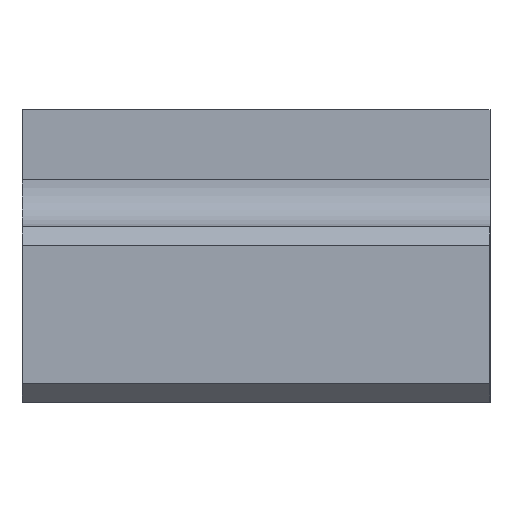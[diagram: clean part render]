
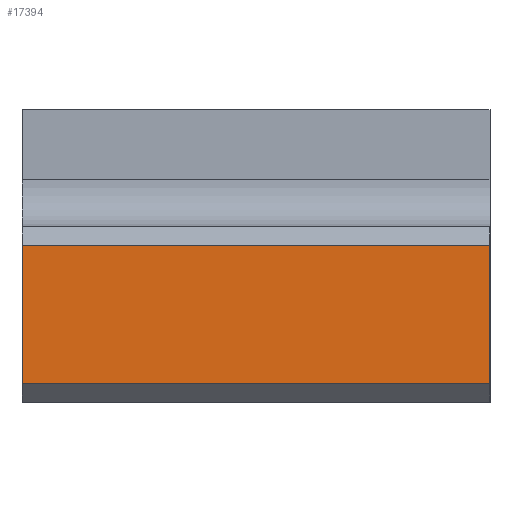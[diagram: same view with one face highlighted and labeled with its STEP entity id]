
A CAD part, left-side view. The second image highlights one B-rep face of the part: STEP entity #17394.
In plain terms, the highlighted planar face has unit normal (-1, 0, 0).
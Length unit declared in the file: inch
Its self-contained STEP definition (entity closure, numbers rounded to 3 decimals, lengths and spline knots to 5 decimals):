
#1125 = EDGE_CURVE ( 'NONE', #4828, #4085, #18127, .T. ) ;
#1126 = EDGE_CURVE ( 'NONE', #4844, #4828, #18129, .T. ) ;
#1127 = EDGE_CURVE ( 'NONE', #4844, #5206, #18131, .T. ) ;
#1269 = ORIENTED_EDGE ( 'NONE', *, *, #1125, .F. ) ;
#1270 = ORIENTED_EDGE ( 'NONE', *, *, #1126, .F. ) ;
#1271 = ORIENTED_EDGE ( 'NONE', *, *, #1127, .T. ) ;
#1272 = ORIENTED_EDGE ( 'NONE', *, *, #14420, .T. ) ;
#1499 = EDGE_LOOP ( 'NONE', ( #1269, #1270, #1271, #1272 ) ) ;
#1691 = AXIS2_PLACEMENT_3D ( 'NONE', #2261, #2262, #2263 ) ;
#1872 = FACE_OUTER_BOUND ( 'NONE', #1499, .T. ) ;
#2260 = PLANE ( 'NONE',  #1691 ) ;
#2261 = CARTESIAN_POINT ( 'NONE',  ( -0.41535, -26.41925, 0.375 ) ) ;
#2262 = DIRECTION ( 'NONE',  ( 1., 0., 0. ) ) ;
#2263 = DIRECTION ( 'NONE',  ( 0., 1., 0. ) ) ;
#4038 = CARTESIAN_POINT ( 'NONE',  ( -0.41535, -26.91925, 0.02 ) ) ;
#4040 = DIRECTION ( 'NONE',  ( 0., 1., 0. ) ) ;
#4041 = CARTESIAN_POINT ( 'NONE',  ( -0.41535, -26.91925, 0.375 ) ) ;
#4043 = DIRECTION ( 'NONE',  ( 0., 0., -1. ) ) ;
#4044 = CARTESIAN_POINT ( 'NONE',  ( -0.41535, -26.91925, 0.1675 ) ) ;
#4047 = DIRECTION ( 'NONE',  ( 0., 1., 0. ) ) ;
#4085 = VERTEX_POINT ( 'NONE', #10985 ) ;
#4828 = VERTEX_POINT ( 'NONE', #10814 ) ;
#4844 = VERTEX_POINT ( 'NONE', #10830 ) ;
#5206 = VERTEX_POINT ( 'NONE', #11391 ) ;
#7378 = CARTESIAN_POINT ( 'NONE',  ( -0.41535, -26.41925, 0.375 ) ) ;
#7379 = DIRECTION ( 'NONE',  ( 0., 0., -1. ) ) ;
#10814 = CARTESIAN_POINT ( 'NONE',  ( -0.41535, -26.91925, 0.02 ) ) ;
#10830 = CARTESIAN_POINT ( 'NONE',  ( -0.41535, -26.91925, 0.1675 ) ) ;
#10985 = CARTESIAN_POINT ( 'NONE',  ( -0.41535, -26.41925, 0.02 ) ) ;
#11391 = CARTESIAN_POINT ( 'NONE',  ( -0.41535, -26.41925, 0.1675 ) ) ;
#14420 = EDGE_CURVE ( 'NONE', #5206, #4085, #16430, .T. ) ;
#16430 = LINE ( 'NONE', #7378, #16431 ) ;
#16431 = VECTOR ( 'NONE', #7379, 39.37008 ) ;
#17394 = ADVANCED_FACE ( 'NONE', ( #1872 ), #2260, .F. ) ;
#18127 = LINE ( 'NONE', #4038, #18128 ) ;
#18128 = VECTOR ( 'NONE', #4040, 39.37008 ) ;
#18129 = LINE ( 'NONE', #4041, #18130 ) ;
#18130 = VECTOR ( 'NONE', #4043, 39.37008 ) ;
#18131 = LINE ( 'NONE', #4044, #18132 ) ;
#18132 = VECTOR ( 'NONE', #4047, 39.37008 ) ;
